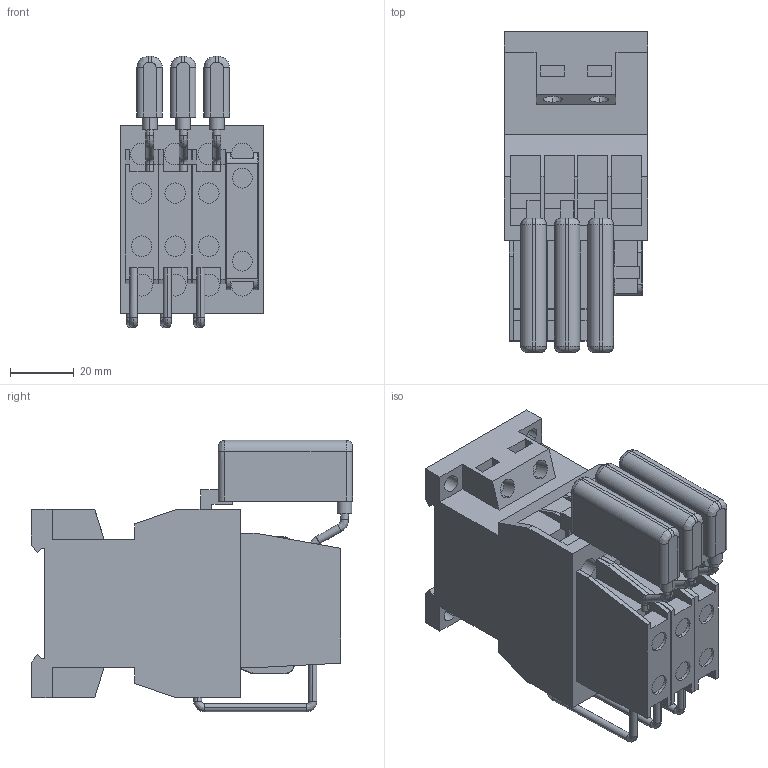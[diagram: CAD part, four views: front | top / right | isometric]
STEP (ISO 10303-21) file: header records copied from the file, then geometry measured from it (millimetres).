
FILE_DESCRIPTION (( 'STEP AP203' ), '1' );
FILE_NAME ('K3-18K20.STEP', '2014-03-10T13:50:13', ( '' ), ( '' ), 'SwSTEP 2.0', 'SolidWorks 2014', '' );
FILE_SCHEMA (( 'CONFIG_CONTROL_DESIGN' ));
Length unit declared in the file: millimetre
Products named in the file (12): Imported_5; Imported; Imported_2; Imported_3; Imported_4; Imported_6; Imported_7; Imported_8; Imported_9; Imported_10; Imported_11; K3-18K20
Assembly tree (11 placements, depth 2):
  K3-18K20
    Imported
    Imported_2
    Imported_3
    Imported_4
    Imported_5
    Imported_6
    Imported_7
    Imported_8
    Imported_9
    Imported_10
    Imported_11
Bounding box: 45 x 100.45 x 84.9 mm (x, y, z)
Volume: 193741 mm3; surface area: 53040.3 mm2
Topology: 11 solids, 11 shells, 495 faces, 1310 edges, 856 vertices
Faces by surface type: plane 323, cylinder 132, bspline 40
Entity records: 17109 total; most frequent: CARTESIAN_POINT 3423, ORIENTED_EDGE 2620, DIRECTION 2542, EDGE_CURVE 1310, LINE 968, VECTOR 968, VERTEX_POINT 856, AXIS2_PLACEMENT_3D 787
